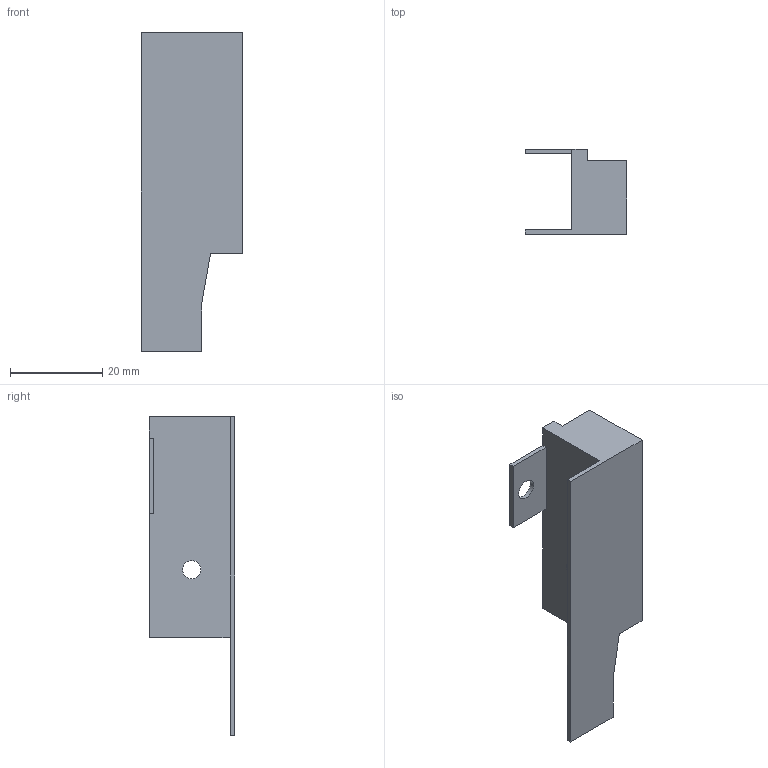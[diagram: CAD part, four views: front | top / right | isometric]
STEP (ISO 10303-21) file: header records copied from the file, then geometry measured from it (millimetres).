
FILE_DESCRIPTION (( 'STEP AP214' ), '1' );
FILE_NAME ('DWD-XP_Holzrueckwandadapter rechts H86 offen.step', '2010-09-27T15:14:26', ( 'grass' ), ( '' ), 'SwSTEP 2.0', 'SolidWorks 2010', '' );
FILE_SCHEMA (( 'AUTOMOTIVE_DESIGN' ));
Length unit declared in the file: millimetre
Products named in the file (1): DWD-XP_Holzrueckwandadapter rechts H86 offen
Bounding box: 22 x 18.5 x 69.1 mm (x, y, z)
Volume: 10298.5 mm3; surface area: 5371.1 mm2
Topology: 1 solids, 1 shells, 21 faces, 57 edges, 38 vertices
Faces by surface type: plane 17, cylinder 4
Entity records: 701 total; most frequent: CARTESIAN_POINT 117, ORIENTED_EDGE 114, DIRECTION 109, EDGE_CURVE 57, VECTOR 49, LINE 49, VERTEX_POINT 38, AXIS2_PLACEMENT_3D 30
